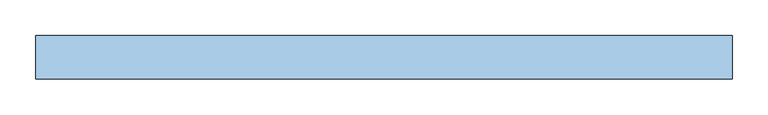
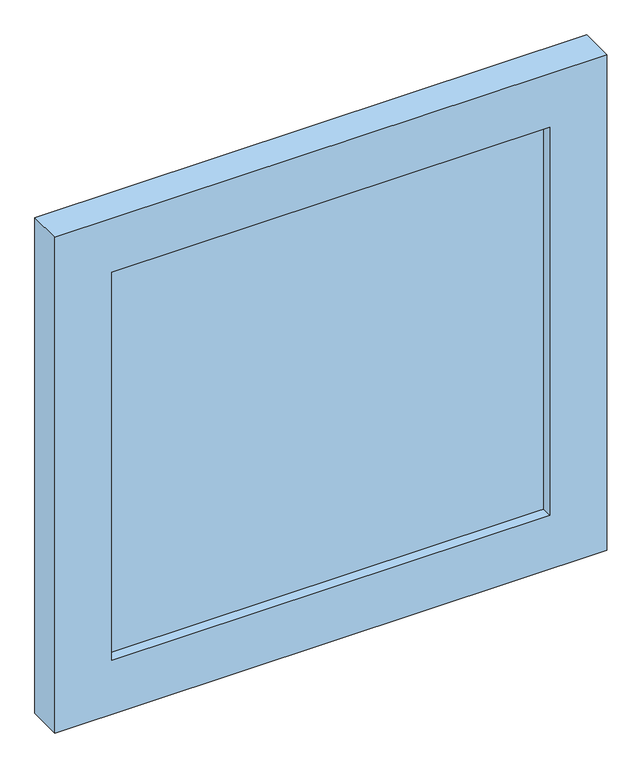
"""IFC4 building model written with IfcOpenShell, lengths in millimetres: window geometry, Витраж-тент Фронтсайд : Витраж-тент."""

from ifc_helpers import new_model, si_unit, frame, origin, place, context, project, spatial, polyline, outline, extrude, source, transform, mapped, element, save


def window_734b0359(model_context):
    return source(origin(), model_context, "Body", "SweptSolid", [
        extrude(outline(polyline([(384.5, 19.05), (-384.5, 19.05), (-384.5, 31.75), (384.5, 31.75), (384.5, 19.05)])), frame((0.0, 0.0, 130.0), z_axis=(0.0, 0.0, 1.0), x_axis=(1.0, 0.0, 0.0)), (0.0, 0.0, 1.0), 720.0),
        extrude(outline(polyline([(950.0, -484.5), (30.0, -484.5), (30.0, 484.5), (950.0, 484.5), (950.0, -484.5)]), holes=[polyline([(850.0, -384.5), (850.0, 384.5), (130.0, 384.5), (130.0, -384.5), (850.0, -384.5)])]), frame((0.0, 0.0, 0.0), z_axis=(0.0, 1.0, 0.0), x_axis=(0.0, 0.0, 1.0)), (0.0, 0.0, 1.0), 60.0),
    ])


if __name__ == "__main__":
    model = new_model("IFC4")
    model_context = context("Model", 3, world=origin())
    ifc_project = project(units=[si_unit("LENGTHUNIT", "METRE", prefix="MILLI")], contexts=[model_context])
    site = spatial("IfcSite", under=ifc_project)
    building = spatial("IfcBuilding", under=site)
    placement = place(None, origin())
    window_shape = window_734b0359(model_context)
    element("IfcWindow", 1, ObjectType="Витраж-тент Фронтсайд : Витраж-тент", at=placement, inside=building, context=model_context, shape_type="MappedRepresentation", body=[
        mapped(window_shape, transform((0.0, 0.0, 0.0), x_axis=(1.0, 0.0, 0.0), y_axis=(0.0, 1.0, 0.0), z_axis=(0.0, 0.0, 1.0))),
    ])
    save(model, "model.ifc")
